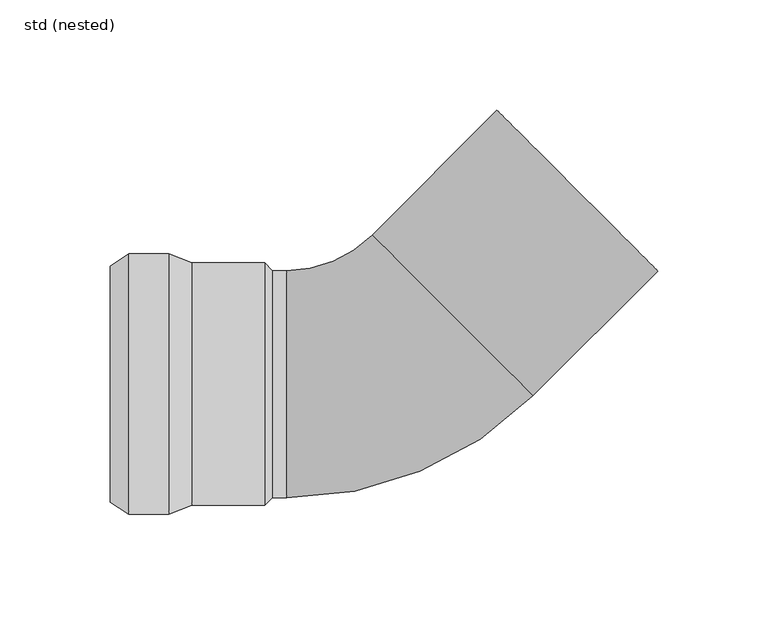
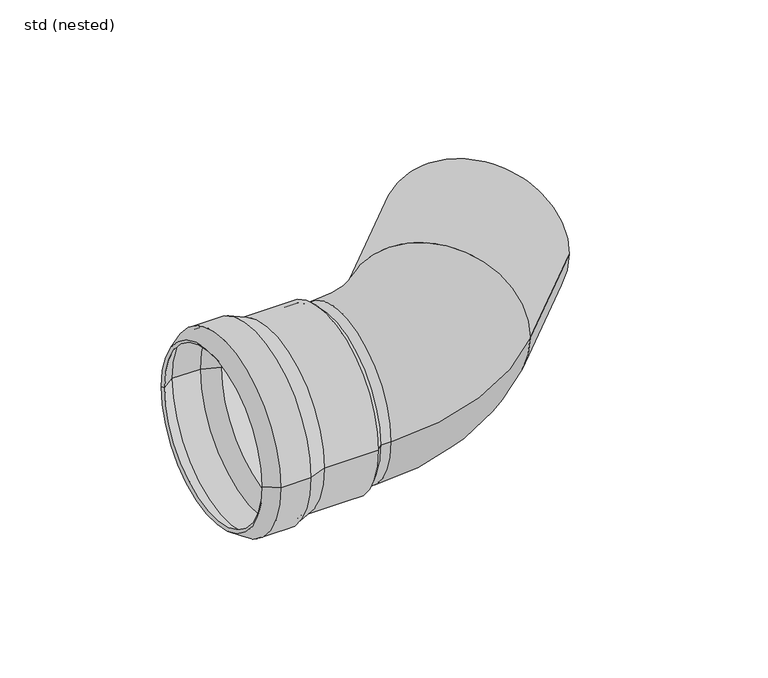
"""IFC4 building model written with IfcOpenShell, lengths in millimetres: pipe fitting geometry, ZZZ_do not use_PIF_ST_UN_GM-X pipe bend_ACO : std (nested)."""

from ifc_helpers import new_model, si_unit, point, frame, origin, place, context, project, spatial, polyline, circle_curve, ellipse_curve, trimmed, source, transform, mapped, element, save
from ifc_brep_helpers import plane_surface, cylinder_surface, revolved_surface, advanced_brep


def std_nested_0554dc6d(model_context):
    return source(origin(), model_context, "Body", "AdvancedBrep", [
        advanced_brep(
        [(-97.5, 59.0, 0.0), (-97.5, -59.0, 0.0), (-115.7, -59.0, 0.0), (-115.7, 59.0, 0.0), (-87.0, 55.0, 0.0), (-87.0, -55.0, 0.0), (-124.0, -53.5, 0.0), (-124.0, 53.5, 0.0), (-54.0, 55.0, 0.0), (-54.0, -55.0, 0.0), (-50.5, 51.5, 0.0), (-50.5, -51.5, 0.0), (-54.0, 51.5, 0.0), (-54.0, -51.5, 0.0), (-87.3680513, 53.0, 0.0), (-87.3680513, -53.0, 0.0), (-54.0, -53.0, 0.0), (-54.0, 53.0, 0.0), (-97.8680513, 57.0, 0.0), (-97.8680513, -57.0, 0.0), (-115.0974883, 57.0, 0.0), (-115.0974883, -57.0, 0.0), (-122.8952393, 51.8328156, 0.0), (-122.8952393, -51.8328156, 0.0)],
        [
            (0, 1, circle_curve(frame((-97.5, 0.0, 0.0), z_axis=(-1.0, 0.0, 0.0), x_axis=(0.0, -1.0, 0.0)), 59.0)),
            (1, 2),
            (2, 3, circle_curve(frame((-115.7, 0.0, 0.0), z_axis=(1.0, 0.0, 0.0), x_axis=(0.0, -1.0, 0.0)), 59.0)),
            (3, 0),
            (1, 0, circle_curve(frame((-97.5, 0.0, 0.0), z_axis=(-1.0, 0.0, 0.0), x_axis=(0.0, -1.0, 0.0)), 59.0)),
            (3, 2, circle_curve(frame((-115.7, 0.0, 0.0), z_axis=(1.0, 0.0, 0.0), x_axis=(0.0, -1.0, 0.0)), 59.0)),
            (4, 5, circle_curve(frame((-87.0, 0.0, 0.0), z_axis=(-1.0, 0.0, 0.0), x_axis=(0.0, -1.0, 0.0)), 55.0)),
            (5, 1),
            (0, 4),
            (5, 4, circle_curve(frame((-87.0, 0.0, 0.0), z_axis=(-1.0, 0.0, 0.0), x_axis=(0.0, -1.0, 0.0)), 55.0)),
            (2, 6),
            (6, 7, circle_curve(frame((-124.0, 0.0, 0.0), z_axis=(1.0, 0.0, 0.0), x_axis=(0.0, -1.0, 0.0)), 53.5)),
            (7, 3),
            (7, 6, circle_curve(frame((-124.0, 0.0, 0.0), z_axis=(1.0, 0.0, 0.0), x_axis=(0.0, -1.0, 0.0)), 53.5)),
            (8, 9, circle_curve(frame((-54.0, 0.0, 0.0), z_axis=(-1.0, 0.0, 0.0), x_axis=(0.0, -1.0, 0.0)), 55.0)),
            (9, 5),
            (4, 8),
            (9, 8, circle_curve(frame((-54.0, 0.0, 0.0), z_axis=(-1.0, 0.0, 0.0), x_axis=(0.0, -1.0, 0.0)), 55.0)),
            (10, 11, circle_curve(frame((-50.5, 0.0, 0.0), z_axis=(-1.0, 0.0, 0.0), x_axis=(0.0, -1.0, 0.0)), 51.5)),
            (11, 9),
            (8, 10),
            (11, 10, circle_curve(frame((-50.5, 0.0, 0.0), z_axis=(-1.0, 0.0, 0.0), x_axis=(0.0, -1.0, 0.0)), 51.5)),
            (12, 13, circle_curve(frame((-54.0, 0.0, 0.0), z_axis=(-1.0, 0.0, 0.0), x_axis=(0.0, -1.0, 0.0)), 51.5)),
            (13, 11),
            (10, 12),
            (13, 12, circle_curve(frame((-54.0, 0.0, 0.0), z_axis=(-1.0, 0.0, 0.0), x_axis=(0.0, -1.0, 0.0)), 51.5)),
            (14, 15, circle_curve(frame((-87.3680513, 0.0, 0.0), z_axis=(-1.0, 0.0, 0.0), x_axis=(0.0, -1.0, 0.0)), 53.0)),
            (15, 16),
            (16, 17, circle_curve(frame((-54.0, 0.0, 0.0), z_axis=(1.0, 0.0, 0.0), x_axis=(0.0, -1.0, 0.0)), 53.0)),
            (17, 14),
            (15, 14, circle_curve(frame((-87.3680513, 0.0, 0.0), z_axis=(-1.0, 0.0, 0.0), x_axis=(0.0, -1.0, 0.0)), 53.0)),
            (17, 16, circle_curve(frame((-54.0, 0.0, 0.0), z_axis=(1.0, 0.0, 0.0), x_axis=(0.0, -1.0, 0.0)), 53.0)),
            (18, 19, circle_curve(frame((-97.8680513, 0.0, 0.0), z_axis=(-1.0, 0.0, 0.0), x_axis=(0.0, -1.0, 0.0)), 57.0)),
            (19, 15),
            (14, 18),
            (19, 18, circle_curve(frame((-97.8680513, 0.0, 0.0), z_axis=(-1.0, 0.0, 0.0), x_axis=(0.0, -1.0, 0.0)), 57.0)),
            (20, 21, circle_curve(frame((-115.0974883, 0.0, 0.0), z_axis=(-1.0, 0.0, 0.0), x_axis=(0.0, -1.0, 0.0)), 57.0)),
            (21, 19),
            (18, 20),
            (21, 20, circle_curve(frame((-115.0974883, 0.0, 0.0), z_axis=(-1.0, 0.0, 0.0), x_axis=(0.0, -1.0, 0.0)), 57.0)),
            (22, 23, circle_curve(frame((-122.8952393, 0.0, 0.0), z_axis=(-1.0, 0.0, 0.0), x_axis=(0.0, -1.0, 0.0)), 51.8328156)),
            (23, 21),
            (20, 22),
            (23, 22, circle_curve(frame((-122.8952393, 0.0, 0.0), z_axis=(-1.0, 0.0, 0.0), x_axis=(0.0, -1.0, 0.0)), 51.8328156)),
            (6, 23),
            (22, 7),
            (16, 13),
            (12, 17),
        ],
        [
            cylinder_surface(frame((-120.6444117, 0.0, 0.0), z_axis=(1.0, 0.0, 0.0), x_axis=(0.0, -1.0, 0.0)), 59.0),
            revolved_surface(polyline([(-97.5, -59.0, 0.0), (-87.0, -55.0, 0.0)]), (-120.6444117, 0.0, 0.0), (1.0, 0.0, 0.0)),
            revolved_surface(polyline([(-124.0, -53.5, 0.0), (-115.7, -59.0, 0.0)]), (-120.6444117, 0.0, 0.0), (1.0, 0.0, 0.0)),
            cylinder_surface(frame((-120.6444117, 0.0, 0.0), z_axis=(1.0, 0.0, 0.0), x_axis=(0.0, -1.0, 0.0)), 55.0),
            revolved_surface(polyline([(-54.0, -55.0, 0.0), (-50.5, -51.5, 0.0)]), (-120.6444117, 0.0, 0.0), (1.0, 0.0, 0.0)),
            revolved_surface(polyline([(-50.5, -51.5, 0.0), (-54.0, -51.5, 0.0)]), (-120.6444117, 0.0, 0.0), (1.0, 0.0, 0.0)),
            revolved_surface(polyline([(-54.0, -53.0, 0.0), (-87.3680513, -53.0, 0.0)]), (-120.6444117, 0.0, 0.0), (1.0, 0.0, 0.0)),
            revolved_surface(polyline([(-87.3680513, -53.0, 0.0), (-97.8680513, -57.0, 0.0)]), (-120.6444117, 0.0, 0.0), (1.0, 0.0, 0.0)),
            revolved_surface(polyline([(-97.8680513, -57.0, 0.0), (-115.0974883, -57.0, 0.0)]), (-120.6444117, 0.0, 0.0), (1.0, 0.0, 0.0)),
            revolved_surface(polyline([(-115.0974883, -57.0, 0.0), (-122.8952393, -51.8328156, 0.0)]), (-120.6444117, 0.0, 0.0), (1.0, 0.0, 0.0)),
            revolved_surface(polyline([(-122.8952393, -51.8328156, 0.0), (-124.0, -53.5, 0.0)]), (-120.6444117, 0.0, 0.0), (1.0, 0.0, 0.0)),
            plane_surface(frame((-54.0, 0.0, 0.0), z_axis=(-1.0, 0.0, 0.0), x_axis=(0.0, -1.0, 0.0))),
        ],
        [
            (0, [[1, 2, 3, 4]]),
            (0, [[5, -4, 6, -2]]),
            (1, [[7, 8, -1, 9]]),
            (1, [[10, -9, -5, -8]]),
            (2, [[-3, 11, 12, 13]]),
            (2, [[-6, -13, 14, -11]]),
            (3, [[15, 16, -7, 17]]),
            (3, [[18, -17, -10, -16]]),
            (4, [[19, 20, -15, 21]]),
            (4, [[22, -21, -18, -20]]),
            (5, [[23, 24, -19, 25]]),
            (5, [[26, -25, -22, -24]]),
            (6, [[27, 28, 29, 30]]),
            (6, [[31, -30, 32, -28]]),
            (7, [[33, 34, -27, 35]]),
            (7, [[36, -35, -31, -34]]),
            (8, [[37, 38, -33, 39]]),
            (8, [[40, -39, -36, -38]]),
            (9, [[41, 42, -37, 43]]),
            (9, [[44, -43, -40, -42]]),
            (10, [[-12, 45, -41, 46]]),
            (10, [[-14, -46, -44, -45]]),
            (11, [[-29, 47, -23, 48]]),
            (11, [[-32, -48, -26, -47]]),
        ],
    ),
        advanced_brep(
        [(-5.3033009, 67.5286976, 0.0), (-44.0, 51.5, 0.0), (-44.0, -51.5, 0.0), (67.5286976, -5.3033009, 0.0), (31.1126984, 31.1126984, 51.5), (31.1126984, 31.1126984, -51.5), (-54.0, -51.5, 0.0), (-54.0, 51.5, 0.0), (124.0972401, 51.2652416, 0.0), (51.2652416, 124.0972401, 0.0)],
        [
            (0, 1, circle_curve(frame((-44.0, 106.2253967, 0.0), z_axis=(0.0, 0.0, -1.0), x_axis=(0.0, -1.0, 0.0)), 54.7253967)),
            (1, 2, circle_curve(frame((-44.0, 0.0, 0.0), z_axis=(1.0, 0.0, 0.0), x_axis=(0.0, 1.0, 0.0)), 51.5)),
            (2, 3, circle_curve(frame((-44.0, 106.2253967, 0.0), z_axis=(0.0, 0.0, 1.0), x_axis=(0.0, -1.0, 0.0)), 157.7253967)),
            (3, 4, circle_curve(frame((31.1126984, 31.1126984, 0.0), z_axis=(-0.7071067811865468, -0.7071067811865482, 0.0), x_axis=(-0.7071067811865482, 0.7071067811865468, 0.0)), 51.5)),
            (4, 0, circle_curve(frame((31.1126984, 31.1126984, 0.0), z_axis=(-0.7071067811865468, -0.7071067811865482, 0.0), x_axis=(-0.7071067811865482, 0.7071067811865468, 0.0)), 51.5)),
            (0, 5, circle_curve(frame((31.1126984, 31.1126984, 0.0), z_axis=(-0.7071067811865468, -0.7071067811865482, 0.0), x_axis=(-0.7071067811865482, 0.7071067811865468, 0.0)), 51.5)),
            (5, 3, circle_curve(frame((31.1126984, 31.1126984, 0.0), z_axis=(-0.7071067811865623, -0.7071067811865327, 0.0), x_axis=(-0.7071067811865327, 0.7071067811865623, 0.0)), 51.5)),
            (2, 1, circle_curve(frame((-44.0, 0.0, 0.0), z_axis=(1.0, 0.0, 0.0), x_axis=(0.0, 1.0, 0.0)), 51.5)),
            (6, 7, circle_curve(frame((-54.0, 0.0, 0.0), z_axis=(-1.0, 0.0, 0.0), x_axis=(0.0, 1.0, 0.0)), 51.5)),
            (7, 6, circle_curve(frame((-54.0, 0.0, 0.0), z_axis=(-1.0, 0.0, 0.0), x_axis=(0.0, 1.0, 0.0)), 51.5)),
            (7, 1),
            (2, 6),
            (8, 9, circle_curve(frame((87.6812409, 87.6812409, 0.0), z_axis=(0.707106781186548, 0.7071067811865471, 0.0), x_axis=(-0.7071067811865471, 0.707106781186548, 0.0)), 51.5)),
            (9, 8, circle_curve(frame((87.6812409, 87.6812409, 0.0), z_axis=(0.707106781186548, 0.7071067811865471, 0.0), x_axis=(-0.7071067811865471, 0.707106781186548, 0.0)), 51.5)),
            (9, 0),
            (3, 8),
        ],
        [
            revolved_surface(trimmed(ellipse_curve(frame((-44.0, 0.0, 0.0), z_axis=(-1.0, 0.0, 0.0), x_axis=(0.0, 1.0, 0.0)), 51.5, 51.5), [point((-44.0, -51.5, 0.0))], [point((-44.0, 51.5, 0.0))], True, "CARTESIAN"), (-44.0, 106.2253967, 0.0), (0.0, 0.0, 1.0)),
            revolved_surface(trimmed(ellipse_curve(frame((-44.0, 0.0, 0.0), z_axis=(-1.0, 0.0, 0.0), x_axis=(0.0, 1.0, 0.0)), 51.5, 51.5), [point((-44.0, 51.5, 0.0))], [point((-44.0, -51.5, 0.0))], True, "CARTESIAN"), (-44.0, 106.2253967, 0.0), (0.0, 0.0, 1.0)),
            plane_surface(frame((-54.0, 51.5, 0.0), z_axis=(-1.0, 0.0, 0.0), x_axis=(0.0, 0.0, -1.0))),
            cylinder_surface(frame((-54.0, 0.0, 0.0), z_axis=(1.0, 0.0, 0.0), x_axis=(0.0, 1.0, 0.0)), 51.5),
            plane_surface(frame((87.6812409, 87.6812409, 0.0), z_axis=(0.707106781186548, 0.7071067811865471, 0.0), x_axis=(0.0, 0.0, 1.0))),
            cylinder_surface(frame((31.1126984, 31.1126984, 0.0), z_axis=(-0.707106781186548, -0.7071067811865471, 0.0), x_axis=(-0.7071067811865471, 0.707106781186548, 0.0)), 51.5),
        ],
        [
            (0, [[1, 2, 3, 4, 5]]),
            (1, [[-1, 6, 7, -3, 8]]),
            (2, [[9, 10]]),
            (3, [[-10, 11, -8, 12]]),
            (3, [[-9, -12, -2, -11]]),
            (4, [[13, 14]]),
            (5, [[-14, 15, -5, -4, 16]]),
            (5, [[-13, -16, -7, -6, -15]]),
        ],
    ),
    ])


if __name__ == "__main__":
    model = new_model("IFC4")
    model_context = context("Model", 3, world=origin())
    ifc_project = project(units=[si_unit("LENGTHUNIT", "METRE", prefix="MILLI")], contexts=[model_context])
    site = spatial("IfcSite", under=ifc_project)
    building = spatial("IfcBuilding", under=site)
    placement = place(None, origin())
    std_nested_shape = std_nested_0554dc6d(model_context)
    element("IfcPipeFitting", 1, ObjectType="ZZZ_do not use_PIF_ST_UN_GM-X pipe bend_ACO : std (nested)", at=placement, inside=building, context=model_context, shape_type="MappedRepresentation", body=[
        mapped(std_nested_shape, transform((0.0, 0.0, 0.0), x_axis=(1.0, 0.0, 0.0), y_axis=(0.0, 1.0, 0.0), z_axis=(0.0, 0.0, 1.0))),
    ])
    save(model, "model.ifc")
